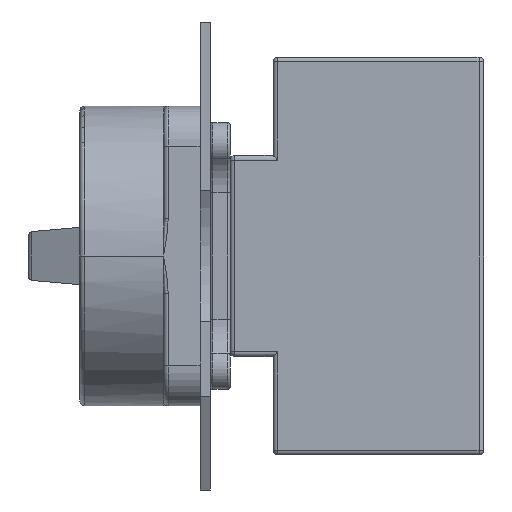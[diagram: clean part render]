
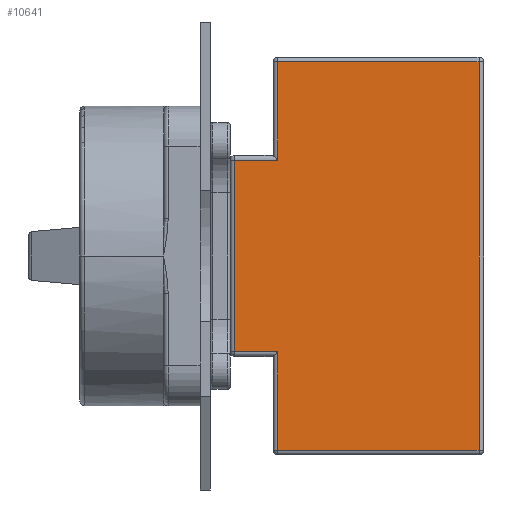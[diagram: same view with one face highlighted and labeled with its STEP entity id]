
A CAD part, left-side view. The second image highlights one B-rep face of the part: STEP entity #10641.
In plain terms, the highlighted planar face has unit normal (-1, 0, 0).
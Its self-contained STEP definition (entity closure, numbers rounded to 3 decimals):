
#34 = ORIENTED_EDGE ( 'NONE', *, *, #10376, .T. ) ;
#373 = ORIENTED_EDGE ( 'NONE', *, *, #4684, .T. ) ;
#376 = LINE ( 'NONE', #11177, #13772 ) ;
#415 = CARTESIAN_POINT ( 'NONE',  ( -39., 1., 41.5 ) ) ;
#419 = ORIENTED_EDGE ( 'NONE', *, *, #2541, .T. ) ;
#554 = VERTEX_POINT ( 'NONE', #9261 ) ;
#723 = ORIENTED_EDGE ( 'NONE', *, *, #12774, .T. ) ;
#749 = ORIENTED_EDGE ( 'NONE', *, *, #829, .T. ) ;
#762 = ORIENTED_EDGE ( 'NONE', *, *, #9900, .T. ) ;
#826 = DIRECTION ( 'NONE',  ( 0., 1., 0. ) ) ;
#829 = EDGE_CURVE ( 'NONE', #11350, #11368, #8439, .T. ) ;
#1018 = DIRECTION ( 'NONE',  ( 0., -1., 0. ) ) ;
#1044 = LINE ( 'NONE', #2337, #1078 ) ;
#1066 = CARTESIAN_POINT ( 'NONE',  ( -39., 45., -20.5 ) ) ;
#1078 = VECTOR ( 'NONE', #9752, 1000. ) ;
#1150 = VERTEX_POINT ( 'NONE', #13082 ) ;
#1197 = VERTEX_POINT ( 'NONE', #415 ) ;
#1353 = VERTEX_POINT ( 'NONE', #11142 ) ;
#1373 = ORIENTED_EDGE ( 'NONE', *, *, #7767, .T. ) ;
#1759 = ORIENTED_EDGE ( 'NONE', *, *, #4942, .T. ) ;
#1834 = DIRECTION ( 'NONE',  ( 0., 0., -1. ) ) ;
#1846 = VERTEX_POINT ( 'NONE', #10265 ) ;
#1891 = VERTEX_POINT ( 'NONE', #3957 ) ;
#2083 = CARTESIAN_POINT ( 'NONE',  ( -39., 45., 20.5 ) ) ;
#2168 = CARTESIAN_POINT ( 'NONE',  ( -39., 44., 42.5 ) ) ;
#2337 = CARTESIAN_POINT ( 'NONE',  ( -39., 45., -41.5 ) ) ;
#2358 = CARTESIAN_POINT ( 'NONE',  ( -39., 1., 42.5 ) ) ;
#2389 = EDGE_LOOP ( 'NONE', ( #749, #34, #373, #419, #723, #762, #1373, #1759 ) ) ;
#2533 = PLANE ( 'NONE',  #3798 ) ;
#2541 = EDGE_CURVE ( 'NONE', #1150, #1197, #10568, .T. ) ;
#3610 = DIRECTION ( 'NONE',  ( 1., 0., 0. ) ) ;
#3798 = AXIS2_PLACEMENT_3D ( 'NONE', #13126, #3610, #11041 ) ;
#3957 = CARTESIAN_POINT ( 'NONE',  ( -39., 53.2, 20.5 ) ) ;
#4684 = EDGE_CURVE ( 'NONE', #554, #1150, #1044, .T. ) ;
#4942 = EDGE_CURVE ( 'NONE', #1891, #11350, #376, .T. ) ;
#5062 = CARTESIAN_POINT ( 'NONE',  ( -39., 53.2, -20.5 ) ) ;
#5265 = DIRECTION ( 'NONE',  ( 0., 1., 0. ) ) ;
#5504 = FACE_OUTER_BOUND ( 'NONE', #2389, .T. ) ;
#5533 = DIRECTION ( 'NONE',  ( 0., 0., 1. ) ) ;
#6837 = VECTOR ( 'NONE', #1834, 1000. ) ;
#6948 = DIRECTION ( 'NONE',  ( 0., 0., -1. ) ) ;
#6950 = LINE ( 'NONE', #12439, #6837 ) ;
#7007 = VECTOR ( 'NONE', #5265, 1000. ) ;
#7197 = LINE ( 'NONE', #2083, #7007 ) ;
#7214 = CARTESIAN_POINT ( 'NONE',  ( -39., 44., -20.5 ) ) ;
#7767 = EDGE_CURVE ( 'NONE', #1846, #1891, #7197, .T. ) ;
#8261 = CARTESIAN_POINT ( 'NONE',  ( -39., 45., 41.5 ) ) ;
#8439 = LINE ( 'NONE', #1066, #9110 ) ;
#8675 = VECTOR ( 'NONE', #9584, 1000. ) ;
#8695 = LINE ( 'NONE', #2168, #8675 ) ;
#9110 = VECTOR ( 'NONE', #1018, 1000. ) ;
#9261 = CARTESIAN_POINT ( 'NONE',  ( -39., 44., -41.5 ) ) ;
#9584 = DIRECTION ( 'NONE',  ( 0., 0., -1. ) ) ;
#9752 = DIRECTION ( 'NONE',  ( 0., -1., 0. ) ) ;
#9900 = EDGE_CURVE ( 'NONE', #1353, #1846, #8695, .T. ) ;
#10265 = CARTESIAN_POINT ( 'NONE',  ( -39., 44., 20.5 ) ) ;
#10376 = EDGE_CURVE ( 'NONE', #11368, #554, #6950, .T. ) ;
#10559 = VECTOR ( 'NONE', #5533, 1000. ) ;
#10568 = LINE ( 'NONE', #2358, #10559 ) ;
#10605 = VECTOR ( 'NONE', #826, 1000. ) ;
#10641 = ADVANCED_FACE ( 'NONE', ( #5504 ), #2533, .F. ) ;
#10752 = LINE ( 'NONE', #8261, #10605 ) ;
#11041 = DIRECTION ( 'NONE',  ( 0., 0., -1. ) ) ;
#11142 = CARTESIAN_POINT ( 'NONE',  ( -39., 44., 41.5 ) ) ;
#11177 = CARTESIAN_POINT ( 'NONE',  ( -39., 53.2, 42.5 ) ) ;
#11350 = VERTEX_POINT ( 'NONE', #5062 ) ;
#11368 = VERTEX_POINT ( 'NONE', #7214 ) ;
#12439 = CARTESIAN_POINT ( 'NONE',  ( -39., 44., 42.5 ) ) ;
#12774 = EDGE_CURVE ( 'NONE', #1197, #1353, #10752, .T. ) ;
#13082 = CARTESIAN_POINT ( 'NONE',  ( -39., 1., -41.5 ) ) ;
#13126 = CARTESIAN_POINT ( 'NONE',  ( -39., 45., 42.5 ) ) ;
#13772 = VECTOR ( 'NONE', #6948, 1000. ) ;
